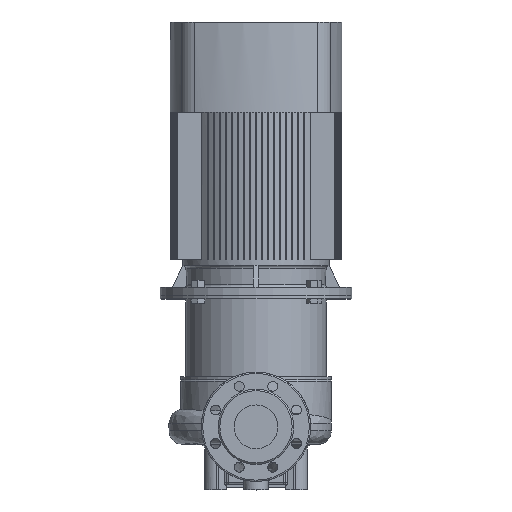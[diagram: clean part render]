
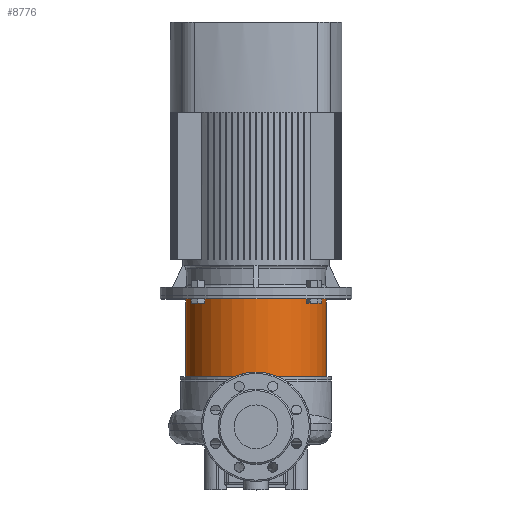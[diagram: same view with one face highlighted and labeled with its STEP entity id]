
A CAD part, top view. The second image highlights one B-rep face of the part: STEP entity #8776.
In plain terms, the highlighted cylindrical face has radius 128 mm (diameter 256 mm), a partial arc.
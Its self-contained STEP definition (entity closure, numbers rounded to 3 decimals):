
#600 = CARTESIAN_POINT ( 'NONE',  ( 0., 0., -148. ) ) ;
#1537 = VERTEX_POINT ( 'NONE', #8494 ) ;
#1995 = LINE ( 'NONE', #25925, #23706 ) ;
#2936 = ORIENTED_EDGE ( 'NONE', *, *, #24504, .T. ) ;
#3299 = ORIENTED_EDGE ( 'NONE', *, *, #26746, .T. ) ;
#6984 = ORIENTED_EDGE ( 'NONE', *, *, #10187, .F. ) ;
#8494 = CARTESIAN_POINT ( 'NONE',  ( -128., 0., -148. ) ) ;
#8776 = ADVANCED_FACE ( 'NONE', ( #15558 ), #17909, .T. ) ;
#9056 = CIRCLE ( 'NONE', #13548, 128. ) ;
#9388 = CARTESIAN_POINT ( 'NONE',  ( 128., 0., -6. ) ) ;
#9696 = DIRECTION ( 'NONE',  ( 0., 0., 1. ) ) ;
#10119 = DIRECTION ( 'NONE',  ( 0., 0., 1. ) ) ;
#10187 = EDGE_CURVE ( 'NONE', #23442, #21418, #24084, .T. ) ;
#13069 = CARTESIAN_POINT ( 'NONE',  ( 0., 0., 14.36 ) ) ;
#13548 = AXIS2_PLACEMENT_3D ( 'NONE', #600, #9696, #22023 ) ;
#14408 = DIRECTION ( 'NONE',  ( 0., 0., 1. ) ) ;
#14874 = CARTESIAN_POINT ( 'NONE',  ( 0., 0., -6. ) ) ;
#15193 = CARTESIAN_POINT ( 'NONE',  ( 128., 0., -148. ) ) ;
#15558 = FACE_OUTER_BOUND ( 'NONE', #30506, .T. ) ;
#17758 = DIRECTION ( 'NONE',  ( 1., 0., 0. ) ) ;
#17909 = CYLINDRICAL_SURFACE ( 'NONE', #18043, 128. ) ;
#18043 = AXIS2_PLACEMENT_3D ( 'NONE', #13069, #29977, #17758 ) ;
#18640 = VECTOR ( 'NONE', #10119, 1000. ) ;
#20888 = CARTESIAN_POINT ( 'NONE',  ( -128., 0., -6. ) ) ;
#21418 = VERTEX_POINT ( 'NONE', #9388 ) ;
#21521 = DIRECTION ( 'NONE',  ( 0., 0., 1. ) ) ;
#21914 = DIRECTION ( 'NONE',  ( 1., 0., 0. ) ) ;
#21985 = CARTESIAN_POINT ( 'NONE',  ( 128., 0., 14.36 ) ) ;
#22023 = DIRECTION ( 'NONE',  ( 1., 0., 0. ) ) ;
#23442 = VERTEX_POINT ( 'NONE', #20888 ) ;
#23706 = VECTOR ( 'NONE', #21521, 1000. ) ;
#24084 = CIRCLE ( 'NONE', #25580, 128. ) ;
#24504 = EDGE_CURVE ( 'NONE', #1537, #29717, #9056, .T. ) ;
#25580 = AXIS2_PLACEMENT_3D ( 'NONE', #14874, #14408, #21914 ) ;
#25925 = CARTESIAN_POINT ( 'NONE',  ( -128., 0., 14.36 ) ) ;
#26746 = EDGE_CURVE ( 'NONE', #29717, #21418, #29056, .T. ) ;
#29056 = LINE ( 'NONE', #21985, #18640 ) ;
#29082 = EDGE_CURVE ( 'NONE', #1537, #23442, #1995, .T. ) ;
#29717 = VERTEX_POINT ( 'NONE', #15193 ) ;
#29977 = DIRECTION ( 'NONE',  ( 0., 0., 1. ) ) ;
#30348 = ORIENTED_EDGE ( 'NONE', *, *, #29082, .F. ) ;
#30506 = EDGE_LOOP ( 'NONE', ( #30348, #2936, #3299, #6984 ) ) ;
